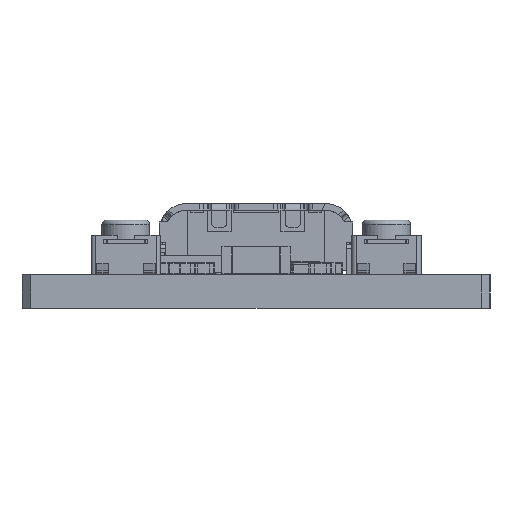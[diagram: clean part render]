
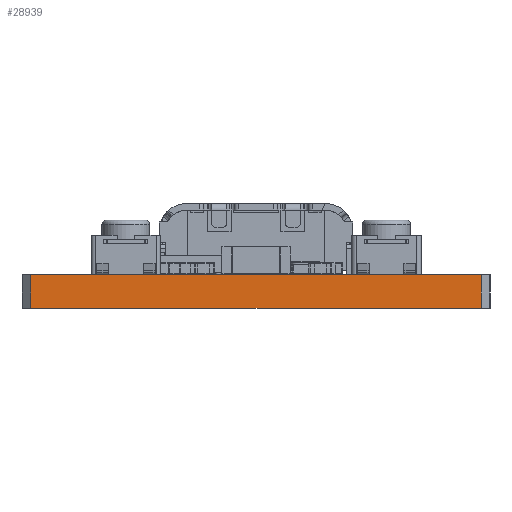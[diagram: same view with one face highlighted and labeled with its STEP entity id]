
A CAD part, left-side view. The second image highlights one B-rep face of the part: STEP entity #28939.
In plain terms, the highlighted planar face has unit normal (-1, 0, 0).
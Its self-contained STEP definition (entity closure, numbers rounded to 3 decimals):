
#28939 = ADVANCED_FACE('',(#28940),#28974,.F.);
#28940 = FACE_BOUND('',#28941,.F.);
#28941 = EDGE_LOOP('',(#28942,#28952,#28960,#28968));
#28942 = ORIENTED_EDGE('',*,*,#28943,.T.);
#28943 = EDGE_CURVE('',#28944,#28946,#28948,.T.);
#28944 = VERTEX_POINT('',#28945);
#28945 = CARTESIAN_POINT('',(0.,21.19,-1.565));
#28946 = VERTEX_POINT('',#28947);
#28947 = CARTESIAN_POINT('',(0.,21.19,0.));
#28948 = LINE('',#28949,#28950);
#28949 = CARTESIAN_POINT('',(0.,21.19,-1.565));
#28950 = VECTOR('',#28951,1.);
#28951 = DIRECTION('',(0.,0.,1.));
#28952 = ORIENTED_EDGE('',*,*,#28953,.T.);
#28953 = EDGE_CURVE('',#28946,#28954,#28956,.T.);
#28954 = VERTEX_POINT('',#28955);
#28955 = CARTESIAN_POINT('',(0.,0.4,0.));
#28956 = LINE('',#28957,#28958);
#28957 = CARTESIAN_POINT('',(0.,21.19,0.));
#28958 = VECTOR('',#28959,1.);
#28959 = DIRECTION('',(0.,-1.,0.));
#28960 = ORIENTED_EDGE('',*,*,#28961,.F.);
#28961 = EDGE_CURVE('',#28962,#28954,#28964,.T.);
#28962 = VERTEX_POINT('',#28963);
#28963 = CARTESIAN_POINT('',(0.,0.4,-1.565));
#28964 = LINE('',#28965,#28966);
#28965 = CARTESIAN_POINT('',(0.,0.4,-1.565));
#28966 = VECTOR('',#28967,1.);
#28967 = DIRECTION('',(0.,0.,1.));
#28968 = ORIENTED_EDGE('',*,*,#28969,.F.);
#28969 = EDGE_CURVE('',#28944,#28962,#28970,.T.);
#28970 = LINE('',#28971,#28972);
#28971 = CARTESIAN_POINT('',(0.,21.19,-1.565));
#28972 = VECTOR('',#28973,1.);
#28973 = DIRECTION('',(0.,-1.,0.));
#28974 = PLANE('',#28975);
#28975 = AXIS2_PLACEMENT_3D('',#28976,#28977,#28978);
#28976 = CARTESIAN_POINT('',(0.,21.19,-1.565));
#28977 = DIRECTION('',(1.,0.,-0.));
#28978 = DIRECTION('',(0.,-1.,0.));
